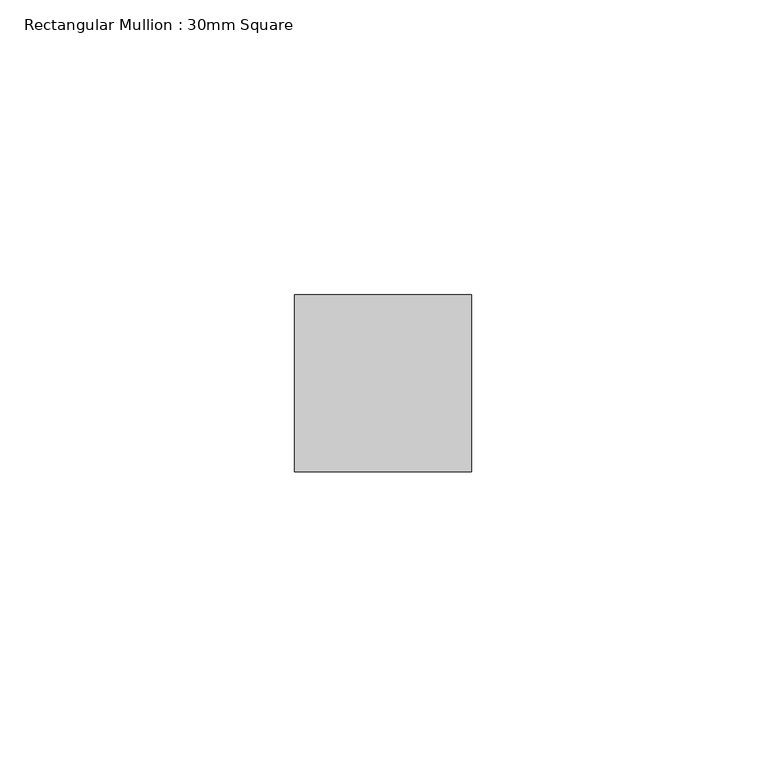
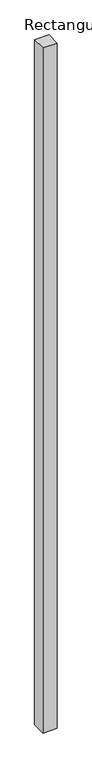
"""IFC4 building model written with IfcOpenShell, lengths in millimetres: member geometry, Rectangular Mullion : 30mm Square."""

import ifcopenshell
import ifcopenshell.guid

model = None  # the IFC model being written
_history = None  # IfcOwnerHistory: only IFC2X3 demands one
_inside = {}  # id of a spatial element -> (the spatial element, [elements in it])
_under = {}  # id of a project, library or spatial element -> (it, [spatial elements below it])
_declared = {}  # id of a project -> (the project, [libraries it declares])
_typed = {}  # id of a type object -> (the type object, [elements of that type])
_made_of = {}  # id of a material, layer set ... -> (it, [elements and type objects made of it])


def new_model(schema):
    """Start an empty IFC model of exactly this schema.

    Asked for "IFC4X3", IfcOpenShell would pick the latest addendum, in which some entities
    have other attributes; the version numbers below select the first issue.
    IFC2X3 requires an IfcOwnerHistory on every rooted entity: one is made here for all.
    """
    global model, _history
    if schema == "IFC4X3":
        model = ifcopenshell.file(schema_version=(4, 3, 0, 0))
    else:
        model = ifcopenshell.file(schema=schema)
    _inside.clear()
    _under.clear()
    _declared.clear()
    _typed.clear()
    _made_of.clear()
    _history = None
    if model.schema == "IFC2X3":
        org = make("IfcOrganization", Name="unknown")
        user = make(
            "IfcPersonAndOrganization",
            ThePerson=make("IfcPerson", FamilyName="unknown"),
            TheOrganization=org,
        )
        app = make(
            "IfcApplication",
            ApplicationDeveloper=org,
            Version="unknown",
            ApplicationFullName="unknown",
            ApplicationIdentifier="unknown",
        )
        _history = make(
            "IfcOwnerHistory",
            OwningUser=user,
            OwningApplication=app,
            ChangeAction="ADDED",
            CreationDate=0,
        )
    return model


def make(cls, **values):
    """One entity of the class cls with the attributes given. An attribute that is None is left unset."""
    return model.create_entity(
        cls, **{name: value for name, value in values.items() if value is not None}
    )


def rooted(cls, **values):
    """An entity with a GlobalId (a new one), such as an element, a storey or a relation."""
    return make(cls, GlobalId=ifcopenshell.guid.new(), OwnerHistory=_history, **values)


def si_unit(unit_type, name, prefix=None):
    """IfcSIUnit, for example si_unit("LENGTHUNIT", "METRE", prefix="MILLI")."""
    return make("IfcSIUnit", UnitType=unit_type, Prefix=prefix, Name=name)


def assignment(units):
    """IfcUnitAssignment: the units of a project."""
    return None if units is None else make("IfcUnitAssignment", Units=units)


def point(xyz):
    """IfcCartesianPoint."""
    return None if xyz is None else make("IfcCartesianPoint", Coordinates=xyz)


def direction(xyz):
    """IfcDirection."""
    return None if xyz is None else make("IfcDirection", DirectionRatios=xyz)


def frame(location, z_axis=None, x_axis=None):
    """IfcAxis2Placement3D, a coordinate frame: its origin and axes. An axis left out is left unset."""
    return make(
        "IfcAxis2Placement3D",
        Location=point(location),
        Axis=direction(z_axis),
        RefDirection=direction(x_axis),
    )


def origin():
    """The frame at (0, 0, 0) with its axes left unset."""
    return frame((0.0, 0.0, 0.0))


def place(relative_to, where):
    """IfcLocalPlacement: puts the frame where relative to a parent placement (None: the world)."""
    return make(
        "IfcLocalPlacement", PlacementRelTo=relative_to, RelativePlacement=where
    )


def context(
    kind, dimensions, precision=None, world=None, true_north=None, identifier=None
):
    """IfcGeometricRepresentationContext, for example the 3D "Model" context."""
    return make(
        "IfcGeometricRepresentationContext",
        ContextIdentifier=identifier,
        ContextType=kind,
        CoordinateSpaceDimension=dimensions,
        Precision=precision,
        WorldCoordinateSystem=world,
        TrueNorth=true_north,
    )


def project(units=None, contexts=None):
    """IfcProject with its units and contexts."""
    return rooted(
        "IfcProject",
        Name="project",
        RepresentationContexts=contexts,
        UnitsInContext=assignment(units),
    )


def spatial(cls, under=None, at=None, **own):
    """A site, building, storey or space (cls), placed at a placement, below another one or the project."""
    s = rooted(cls, ObjectPlacement=at, **own)
    if under is not None:
        _under.setdefault(under.id(), (under, []))[1].append(s)
    return s


def polyline(points):
    """IfcPolyline through the points."""
    return make("IfcPolyline", Points=[point(p) for p in points])


def outline(outer, holes=None, kind="AREA"):
    """IfcArbitraryClosedProfileDef: a profile drawn as a closed curve; with holes, ...WithVoids."""
    if holes is None:
        return make("IfcArbitraryClosedProfileDef", ProfileType=kind, OuterCurve=outer)
    return make(
        "IfcArbitraryProfileDefWithVoids",
        ProfileType=kind,
        OuterCurve=outer,
        InnerCurves=holes,
    )


def extrude(swept, where, along, depth):
    """IfcExtrudedAreaSolid: the profile swept, set in the frame where, extruded along a direction by depth."""
    return make(
        "IfcExtrudedAreaSolid",
        SweptArea=swept,
        Position=where,
        ExtrudedDirection=direction(along),
        Depth=depth,
    )


def shape(context_of_items, identifier, shape_type, items):
    """IfcShapeRepresentation: the items that make up one representation, for example the "Body"."""
    return make(
        "IfcShapeRepresentation",
        ContextOfItems=context_of_items,
        RepresentationIdentifier=identifier,
        RepresentationType=shape_type,
        Items=items,
    )


def source(mapping_origin, context_of_items, identifier, shape_type, items):
    """IfcRepresentationMap: a shape defined once, which mapped items show again and again."""
    return make(
        "IfcRepresentationMap",
        MappingOrigin=mapping_origin,
        MappedRepresentation=shape(context_of_items, identifier, shape_type, items),
    )


def transform(
    local_origin,
    x_axis=None,
    y_axis=None,
    z_axis=None,
    scale=None,
    scale2=None,
    scale3=None,
    uniform=True,
):
    """IfcCartesianTransformationOperator3D, or its non-uniform kind. x_axis, y_axis, z_axis: its Axis1, 2, 3."""
    if uniform:
        return make(
            "IfcCartesianTransformationOperator3D",
            Axis1=direction(x_axis),
            Axis2=direction(y_axis),
            LocalOrigin=point(local_origin),
            Scale=scale,
            Axis3=direction(z_axis),
        )
    return make(
        "IfcCartesianTransformationOperator3DnonUniform",
        Axis1=direction(x_axis),
        Axis2=direction(y_axis),
        LocalOrigin=point(local_origin),
        Scale=scale,
        Axis3=direction(z_axis),
        Scale2=scale2,
        Scale3=scale3,
    )


def mapped(mapping_source, mapping_target):
    """IfcMappedItem: shows the shape of a source again, moved by a transform."""
    return make(
        "IfcMappedItem", MappingSource=mapping_source, MappingTarget=mapping_target
    )


def made_of(thing, what):
    """Note that an element or type object is made of a material, layer set ...; save() writes the relation."""
    if what is not None:
        _made_of.setdefault(what.id(), (what, []))[1].append(thing)
    return thing


def element(
    cls,
    number,
    at=None,
    inside=None,
    cuts=None,
    type_object=None,
    material=None,
    context=None,
    identifier="Body",
    shape_type=None,
    held_by="IfcProductDefinitionShape",
    body=None,
    shapes=None,
    **own,
):
    """One element of the class cls, such as IfcWall. Its Tag is "e" and its number.

    at: its placement. inside: the storey or other place that contains it. cuts: it is an
    opening in that element (IfcRelVoidsElement). A single representation is given by context,
    identifier, shape_type and body (its items); several are given by shapes. held_by: the class
    of the entity that holds the representations. save() writes the other relations.
    """
    e = rooted(cls, Tag="e%d" % number, ObjectPlacement=at, **own)
    if body is not None:
        shapes = [shape(context, identifier, shape_type, body)]
    if shapes is not None:
        e.Representation = make(held_by, Representations=shapes)
    if inside is not None:
        _inside.setdefault(inside.id(), (inside, []))[1].append(e)
    if cuts is not None:
        rooted(
            "IfcRelVoidsElement", RelatingBuildingElement=cuts, RelatedOpeningElement=e
        )
    if type_object is not None:
        _typed.setdefault(type_object.id(), (type_object, []))[1].append(e)
    return made_of(e, material)


def aggregate(whole, parts):
    """IfcRelAggregates: a whole, such as a stair, and the parts it consists of."""
    return rooted("IfcRelAggregates", RelatingObject=whole, RelatedObjects=parts)


def save(model, path):
    """Write the relations noted so far, then the file.

    IfcRelAggregates (storeys below a building ...), IfcRelContainedInSpatialStructure (elements
    in a storey), IfcRelDefinesByType, IfcRelAssociatesMaterial and IfcRelDeclares: one each for
    every whole, place, type object, material and project.
    """
    for whole, parts in _under.values():
        aggregate(whole, parts)
    for where, things in _inside.values():
        rooted(
            "IfcRelContainedInSpatialStructure",
            RelatedElements=things,
            RelatingStructure=where,
        )
    for kind, things in _typed.values():
        rooted("IfcRelDefinesByType", RelatedObjects=things, RelatingType=kind)
    for what, things in _made_of.values():
        rooted("IfcRelAssociatesMaterial", RelatedObjects=things, RelatingMaterial=what)
    for by, libraries in _declared.values():
        rooted("IfcRelDeclares", RelatingContext=by, RelatedDefinitions=libraries)
    model.write(path)


def rectangular_mullion_30mm_square_d7211219(model_context):
    return source(origin(), model_context, "Body", "SweptSolid", [
        extrude(outline(polyline([(0.0, 15.0), (0.0, -15.0), (-30.0, -15.0), (-30.0, 15.0), (0.0, 15.0)])), frame((0.0, 0.0, -1530.0), z_axis=(0.0, 0.0, 1.0), x_axis=(1.0, 0.0, 0.0)), (0.0, 0.0, 1.0), 1530.0),
    ])


if __name__ == "__main__":
    model = new_model("IFC4")
    model_context = context("Model", 3, world=origin())
    ifc_project = project(units=[si_unit("LENGTHUNIT", "METRE", prefix="MILLI")], contexts=[model_context])
    site = spatial("IfcSite", under=ifc_project)
    building = spatial("IfcBuilding", under=site)
    placement = place(None, origin())
    rectangular_mullion_30mm_square_shape = rectangular_mullion_30mm_square_d7211219(model_context)
    element("IfcMember", 1, ObjectType="Rectangular Mullion : 30mm Square", at=placement, inside=building, context=model_context, shape_type="MappedRepresentation", body=[
        mapped(rectangular_mullion_30mm_square_shape, transform((0.0, 0.0, 0.0), x_axis=(1.0, 0.0, 0.0), y_axis=(0.0, 1.0, 0.0), z_axis=(0.0, 0.0, 1.0))),
    ])
    save(model, "model.ifc")
